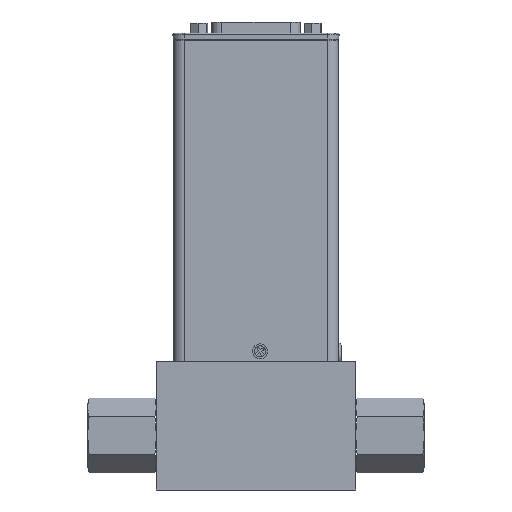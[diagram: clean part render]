
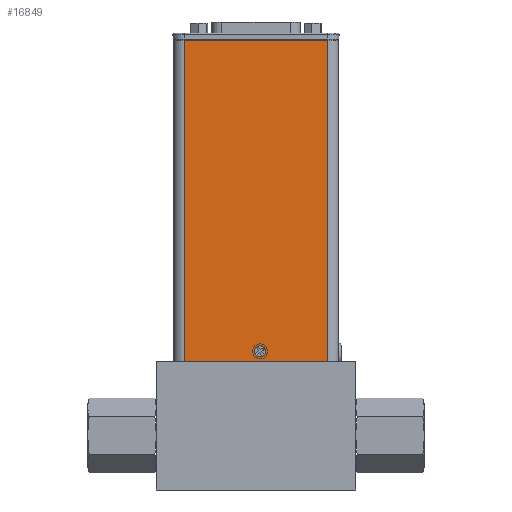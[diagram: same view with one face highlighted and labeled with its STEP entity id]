
A CAD part, front view. The second image highlights one B-rep face of the part: STEP entity #16849.
In plain terms, the highlighted planar face has unit normal (0, -1, 0).
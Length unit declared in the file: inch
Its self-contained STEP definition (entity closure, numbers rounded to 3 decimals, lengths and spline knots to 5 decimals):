
#40 = PLANE ( 'NONE',  #6778 ) ;
#91 = CARTESIAN_POINT ( 'NONE',  ( 1.07761, 0.008, 1.60311 ) ) ;
#501 = VERTEX_POINT ( 'NONE', #10900 ) ;
#835 = VECTOR ( 'NONE', #18240, 39.37008 ) ;
#1356 = EDGE_LOOP ( 'NONE', ( #12074, #10942 ) ) ;
#1459 = EDGE_LOOP ( 'NONE', ( #6883, #3824, #6702, #12243 ) ) ;
#1508 = CARTESIAN_POINT ( 'NONE',  ( 1.03036, 0.008, 5.19964 ) ) ;
#1646 = DIRECTION ( 'NONE',  ( 0., 0., 1. ) ) ;
#2228 = CARTESIAN_POINT ( 'NONE',  ( 0.20236, 0.008, 1.48511 ) ) ;
#2506 = LINE ( 'NONE', #1508, #14102 ) ;
#3824 = ORIENTED_EDGE ( 'NONE', *, *, #16471, .T. ) ;
#4128 = AXIS2_PLACEMENT_3D ( 'NONE', #5815, #16367, #7346 ) ;
#4290 = EDGE_CURVE ( 'NONE', #5329, #18066, #2506, .T. ) ;
#4683 = DIRECTION ( 'NONE',  ( 0., -1., 0. ) ) ;
#5329 = VERTEX_POINT ( 'NONE', #18233 ) ;
#5815 = CARTESIAN_POINT ( 'NONE',  ( 1.07761, 0.008, 1.60311 ) ) ;
#6154 = CARTESIAN_POINT ( 'NONE',  ( 1.85836, 0.008, 1.48511 ) ) ;
#6649 = AXIS2_PLACEMENT_3D ( 'NONE', #91, #10733, #1646 ) ;
#6702 = ORIENTED_EDGE ( 'NONE', *, *, #16285, .T. ) ;
#6710 = VECTOR ( 'NONE', #13595, 39.37008 ) ;
#6778 = AXIS2_PLACEMENT_3D ( 'NONE', #12198, #4683, #15232 ) ;
#6823 = EDGE_CURVE ( 'NONE', #12743, #501, #18616, .T. ) ;
#6883 = ORIENTED_EDGE ( 'NONE', *, *, #4290, .T. ) ;
#7346 = DIRECTION ( 'NONE',  ( 0., 0., 1. ) ) ;
#7560 = CARTESIAN_POINT ( 'NONE',  ( 1.03036, 0.008, 1.48511 ) ) ;
#7609 = VERTEX_POINT ( 'NONE', #17296 ) ;
#10214 = FACE_BOUND ( 'NONE', #1356, .T. ) ;
#10645 = EDGE_CURVE ( 'NONE', #501, #12743, #13382, .T. ) ;
#10733 = DIRECTION ( 'NONE',  ( 0., 1., 0. ) ) ;
#10900 = CARTESIAN_POINT ( 'NONE',  ( 1.07761, 0.008, 1.6661 ) ) ;
#10942 = ORIENTED_EDGE ( 'NONE', *, *, #6823, .T. ) ;
#11223 = VERTEX_POINT ( 'NONE', #16081 ) ;
#11310 = DIRECTION ( 'NONE',  ( 0., 0., -1. ) ) ;
#11420 = LINE ( 'NONE', #2228, #19462 ) ;
#12074 = ORIENTED_EDGE ( 'NONE', *, *, #10645, .T. ) ;
#12198 = CARTESIAN_POINT ( 'NONE',  ( 1.03036, 0.008, 1.48511 ) ) ;
#12243 = ORIENTED_EDGE ( 'NONE', *, *, #15550, .T. ) ;
#12743 = VERTEX_POINT ( 'NONE', #14788 ) ;
#13382 = CIRCLE ( 'NONE', #4128, 0.06299 ) ;
#13595 = DIRECTION ( 'NONE',  ( 1., 0., 0. ) ) ;
#13755 = FACE_OUTER_BOUND ( 'NONE', #1459, .T. ) ;
#14102 = VECTOR ( 'NONE', #15162, 39.37008 ) ;
#14506 = CARTESIAN_POINT ( 'NONE',  ( 0.20236, 0.008, 5.19964 ) ) ;
#14788 = CARTESIAN_POINT ( 'NONE',  ( 1.07761, 0.008, 1.54012 ) ) ;
#15162 = DIRECTION ( 'NONE',  ( -1., 0., 0. ) ) ;
#15232 = DIRECTION ( 'NONE',  ( 0., 0., -1. ) ) ;
#15550 = EDGE_CURVE ( 'NONE', #7609, #5329, #19597, .T. ) ;
#16081 = CARTESIAN_POINT ( 'NONE',  ( 0.20236, 0.008, 1.48511 ) ) ;
#16285 = EDGE_CURVE ( 'NONE', #11223, #7609, #18279, .T. ) ;
#16367 = DIRECTION ( 'NONE',  ( 0., 1., 0. ) ) ;
#16471 = EDGE_CURVE ( 'NONE', #18066, #11223, #11420, .T. ) ;
#16849 = ADVANCED_FACE ( 'NONE', ( #13755, #10214 ), #40, .T. ) ;
#17296 = CARTESIAN_POINT ( 'NONE',  ( 1.85836, 0.008, 1.48511 ) ) ;
#18066 = VERTEX_POINT ( 'NONE', #14506 ) ;
#18233 = CARTESIAN_POINT ( 'NONE',  ( 1.85836, 0.008, 5.19964 ) ) ;
#18240 = DIRECTION ( 'NONE',  ( 0., 0., 1. ) ) ;
#18279 = LINE ( 'NONE', #7560, #6710 ) ;
#18616 = CIRCLE ( 'NONE', #6649, 0.06299 ) ;
#19462 = VECTOR ( 'NONE', #11310, 39.37008 ) ;
#19597 = LINE ( 'NONE', #6154, #835 ) ;
